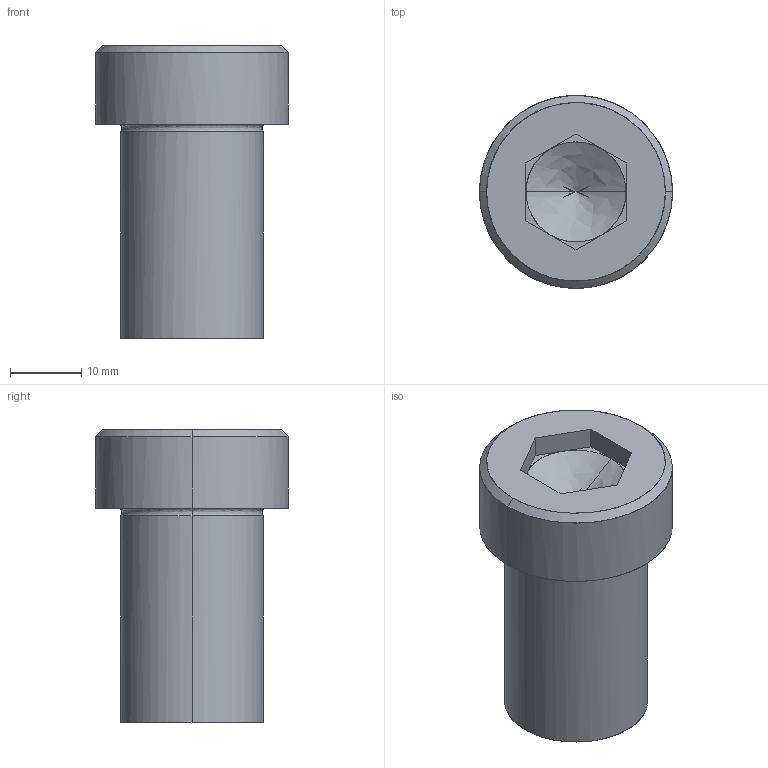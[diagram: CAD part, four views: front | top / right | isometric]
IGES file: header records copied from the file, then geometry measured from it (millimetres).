
Global section: file name: E:\UnigraphicsGraphicData\MISUMI_PRESS-PARTS\IGES\3d_sbtcn20-30_05136_r00.igs; native system: NX V5.0; preprocessor: UGS NX IGES V5.0; author: MISUMI; date: 20110105.162457; units: millimetre
Bounding box: 27 x 27 x 41 mm (x, y, z)
Surface area: 4914 mm2 (no closed solid volume)
Topology: 0 solids, 0 shells, 34 faces, 194 edges, 190 vertices
Faces by surface type: bspline 34
